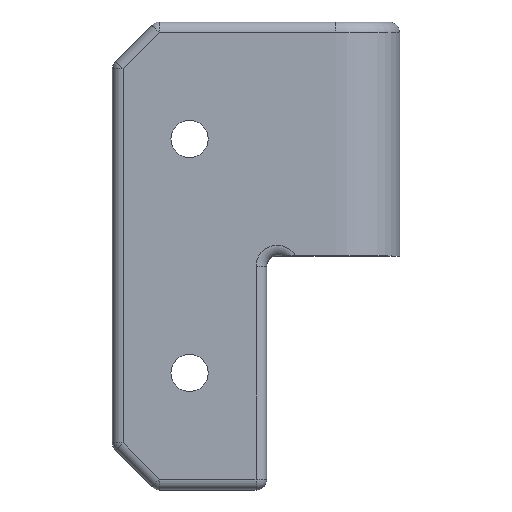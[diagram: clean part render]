
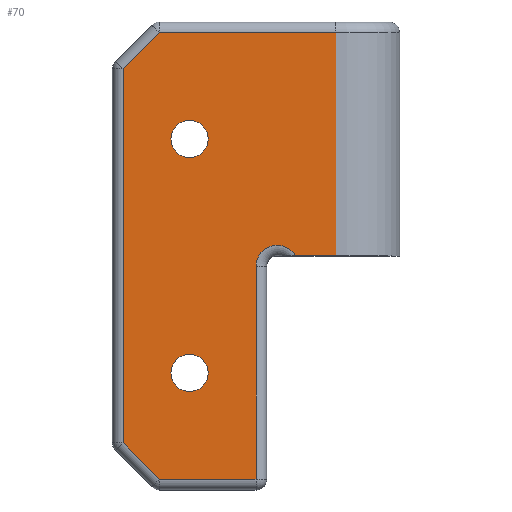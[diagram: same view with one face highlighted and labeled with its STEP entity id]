
A CAD part, top view. The second image highlights one B-rep face of the part: STEP entity #70.
In plain terms, the highlighted planar face has unit normal (0, 0, 1).
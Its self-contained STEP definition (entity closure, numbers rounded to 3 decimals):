
#70=ADVANCED_FACE('',(#184,#186,#188),#190,.F.);
#184=FACE_BOUND('',#185,.T.);
#185=EDGE_LOOP('',(#658,#659,#660,#661,#662,#663,#664,#665,#666));
#186=FACE_BOUND('',#187,.T.);
#187=EDGE_LOOP('',(#667));
#188=FACE_BOUND('',#189,.T.);
#189=EDGE_LOOP('',(#668));
#190=PLANE('',#191);
#191=AXIS2_PLACEMENT_3D('',#192,#193,#194);
#192=CARTESIAN_POINT('',(0.,0.,0.));
#193=DIRECTION('',(0.,0.,-1.));
#194=DIRECTION('',(1.,0.,0.));
#658=ORIENTED_EDGE('',*,*,#878,.F.);
#659=ORIENTED_EDGE('',*,*,#879,.T.);
#660=ORIENTED_EDGE('',*,*,#880,.F.);
#661=ORIENTED_EDGE('',*,*,#881,.F.);
#662=ORIENTED_EDGE('',*,*,#882,.F.);
#663=ORIENTED_EDGE('',*,*,#883,.F.);
#664=ORIENTED_EDGE('',*,*,#884,.F.);
#665=ORIENTED_EDGE('',*,*,#885,.F.);
#666=ORIENTED_EDGE('',*,*,#886,.F.);
#667=ORIENTED_EDGE('',*,*,#887,.T.);
#668=ORIENTED_EDGE('',*,*,#888,.T.);
#878=EDGE_CURVE('',#997,#998,#999,.F.);
#879=EDGE_CURVE('',#997,#1000,#1001,.T.);
#880=EDGE_CURVE('',#1002,#1000,#1003,.T.);
#881=EDGE_CURVE('',#1004,#1002,#1005,.T.);
#882=EDGE_CURVE('',#1006,#1004,#1007,.F.);
#883=EDGE_CURVE('',#1008,#1006,#1009,.T.);
#884=EDGE_CURVE('',#1010,#1008,#1011,.F.);
#885=EDGE_CURVE('',#1012,#1010,#1013,.T.);
#886=EDGE_CURVE('',#998,#1012,#1014,.T.);
#887=EDGE_CURVE('',#1015,#1015,#1016,.T.);
#888=EDGE_CURVE('',#1017,#1017,#1018,.T.);
#997=VERTEX_POINT('',#1196);
#998=VERTEX_POINT('',#1197);
#999=CIRCLE('',#1198,2.);
#1000=VERTEX_POINT('',#1202);
#1001=LINE('',#1203,#1204);
#1002=VERTEX_POINT('',#1206);
#1003=LINE('',#1207,#1208);
#1004=VERTEX_POINT('',#1210);
#1005=LINE('',#1211,#1212);
#1006=VERTEX_POINT('',#1214);
#1007=LINE('',#1215,#1216);
#1008=VERTEX_POINT('',#1218);
#1009=LINE('',#1219,#1220);
#1010=VERTEX_POINT('',#1222);
#1011=LINE('',#1223,#1224);
#1012=VERTEX_POINT('',#1226);
#1013=LINE('',#1227,#1228);
#1014=LINE('',#1230,#1231);
#1015=VERTEX_POINT('',#1233);
#1016=CIRCLE('',#1234,1.75);
#1017=VERTEX_POINT('',#1238);
#1018=CIRCLE('',#1239,1.75);
#1196=CARTESIAN_POINT('',(9.982,0.,0.));
#1197=CARTESIAN_POINT('',(6.25,-1.,0.));
#1198=AXIS2_PLACEMENT_3D('',#1199,#1200,#1201);
#1199=CARTESIAN_POINT('',(8.25,-1.,0.));
#1200=DIRECTION('',(0.,0.,-1.));
#1201=DIRECTION('',(-1.,0.,0.));
#1202=CARTESIAN_POINT('',(13.75,0.,0.));
#1203=CARTESIAN_POINT('',(9.982,0.,0.));
#1204=VECTOR('',#1205,1.);
#1205=DIRECTION('',(1.,0.,0.));
#1206=CARTESIAN_POINT('',(13.75,21.,0.));
#1207=CARTESIAN_POINT('',(13.75,21.,0.));
#1208=VECTOR('',#1209,1.);
#1209=DIRECTION('',(0.,-1.,0.));
#1210=CARTESIAN_POINT('',(-2.836,21.,0.));
#1211=CARTESIAN_POINT('',(-2.836,21.,0.));
#1212=VECTOR('',#1213,1.);
#1213=DIRECTION('',(1.,0.,0.));
#1214=CARTESIAN_POINT('',(-6.25,17.586,0.));
#1215=CARTESIAN_POINT('',(-2.836,21.,0.));
#1216=VECTOR('',#1217,1.);
#1217=DIRECTION('',(-0.707,-0.707,0.));
#1218=CARTESIAN_POINT('',(-6.25,-17.586,0.));
#1219=CARTESIAN_POINT('',(-6.25,-17.586,0.));
#1220=VECTOR('',#1221,1.);
#1221=DIRECTION('',(0.,1.,0.));
#1222=CARTESIAN_POINT('',(-2.836,-21.,0.));
#1223=CARTESIAN_POINT('',(-6.25,-17.586,0.));
#1224=VECTOR('',#1225,1.);
#1225=DIRECTION('',(0.707,-0.707,0.));
#1226=CARTESIAN_POINT('',(6.25,-21.,0.));
#1227=CARTESIAN_POINT('',(6.25,-21.,0.));
#1228=VECTOR('',#1229,1.);
#1229=DIRECTION('',(-1.,0.,0.));
#1230=CARTESIAN_POINT('',(6.25,-1.,0.));
#1231=VECTOR('',#1232,1.);
#1232=DIRECTION('',(0.,-1.,0.));
#1233=CARTESIAN_POINT('',(0.,12.75,0.));
#1234=AXIS2_PLACEMENT_3D('',#1235,#1236,#1237);
#1235=CARTESIAN_POINT('',(0.,11.,0.));
#1236=DIRECTION('',(0.,0.,-1.));
#1237=DIRECTION('',(0.,1.,0.));
#1238=CARTESIAN_POINT('',(0.,-9.25,0.));
#1239=AXIS2_PLACEMENT_3D('',#1240,#1241,#1242);
#1240=CARTESIAN_POINT('',(0.,-11.,0.));
#1241=DIRECTION('',(0.,0.,-1.));
#1242=DIRECTION('',(0.,1.,0.));
